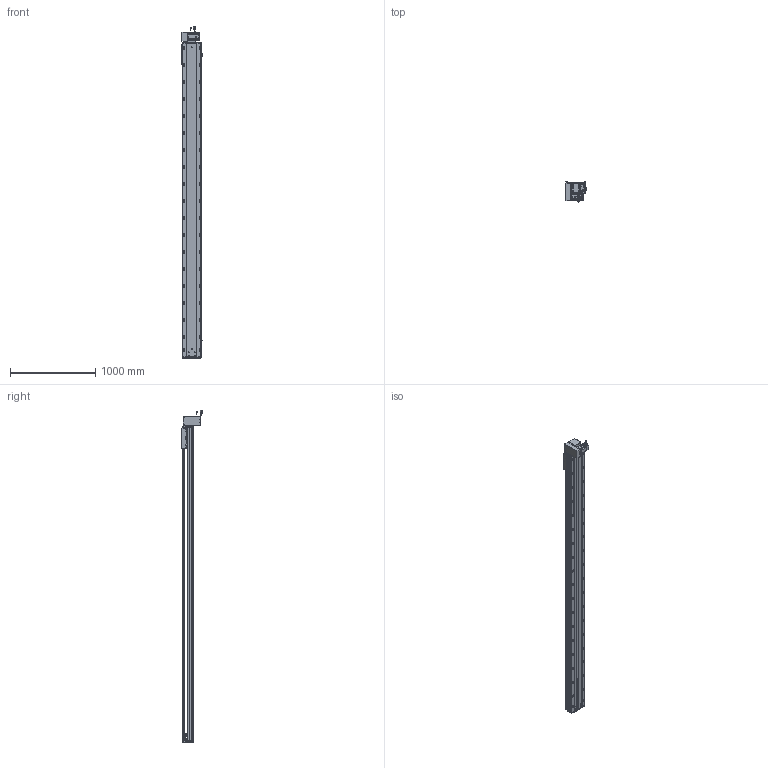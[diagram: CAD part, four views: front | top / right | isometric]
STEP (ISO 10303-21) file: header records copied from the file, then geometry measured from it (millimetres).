
FILE_DESCRIPTION (( 'STEP AP203' ), '1' );
FILE_NAME ('RY220-T-300-DL.SLDASM_3350.step', '2022-07-25T07:56:00', ( '' ), ( '' ), 'SwSTEP 2.0', 'SolidWorks 2016', '' );
FILE_SCHEMA (( 'CONFIG_CONTROL_DESIGN' ));
Length unit declared in the file: millimetre
Products named in the file (14): RY220-T-300-奻裔啣_3350; RY220圉猾敕々湍臏賑輸; RY220-T菁釱-300_3350; RY220-T-蛌殏萇儂假蚾啣(750W); 滅袉蝶18-15; RY220-T-300-DL.SLDASM_3350; 覜茼ん672; 110A-T-肮祭謫釱傷裔; RY220翋肮祭謫裔啣; RY220-俋离672覜茼んえ; RY220翋肮祭謫釱; RY220-同步轮副支撑座6304×2; RY220-T-湍謫欶(鍼踢); 怢湛750W_ECMA-CX0807ES
Assembly tree (18 placements, depth 2):
  RY220-T-300-DL.SLDASM_3350
    RY220-T菁釱-300_3350
    RY220翋肮祭謫釱
    覜茼ん672  x3
    RY220圉猾敕々湍臏賑輸
    RY220-T-300-奻裔啣_3350
    RY220-俋离672覜茼んえ
    滅袉蝶18-15  x3
    RY220翋肮祭謫裔啣  x2
    110A-T-肮祭謫釱傷裔
    怢湛750W_ECMA-CX0807ES
    RY220-T-湍謫欶(鍼踢)
    RY220-T-蛌殏萇儂假蚾啣(750W)
    RY220-同步轮副支撑座6304×2
Bounding box: 239.7 x 240.74 x 3903.27 mm (x, y, z)
Volume: 27468394 mm3; surface area: 8537511.6 mm2
Topology: 19 solids, 19 shells, 3104 faces, 8591 edges, 5364 vertices
Faces by surface type: cylinder 1548, plane 1069, cone 405, bspline 56, sphere 16, torus 10
Entity records: 103555 total; most frequent: CARTESIAN_POINT 29131, ORIENTED_EDGE 15354, DIRECTION 14900, EDGE_CURVE 7677, AXIS2_PLACEMENT_3D 5402, VERTEX_POINT 4988, VECTOR 4096, LINE 4096
